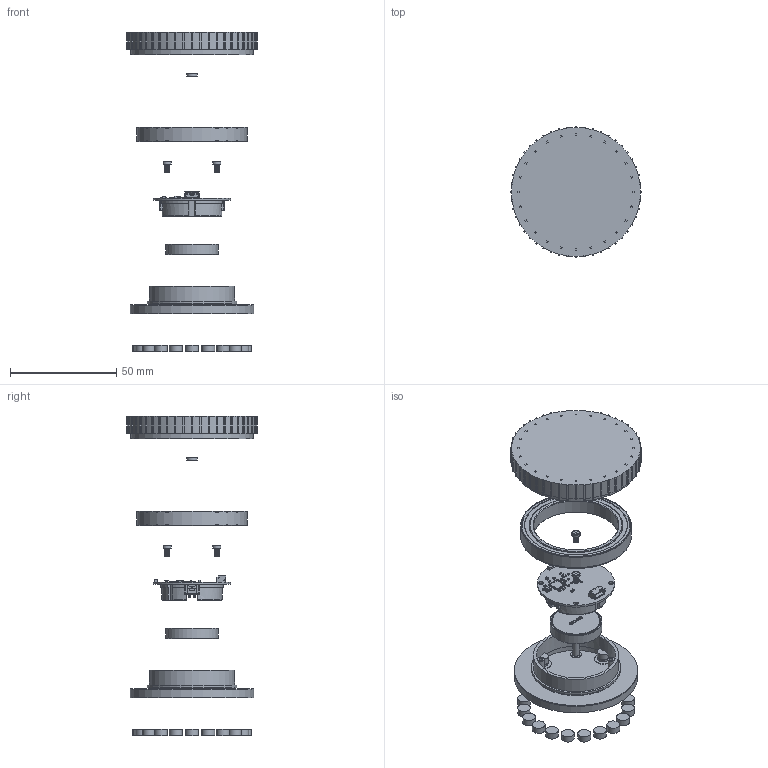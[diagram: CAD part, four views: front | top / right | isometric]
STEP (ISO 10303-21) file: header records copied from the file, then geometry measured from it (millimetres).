
FILE_DESCRIPTION(('Open CASCADE Model'),'2;1');
FILE_NAME('Open CASCADE Shape Model','2026-11-12T18:16:53',('Author'),( 'Open CASCADE'),'Open CASCADE STEP processor 7.9','Open CASCADE 7.9' ,'Unknown');
FILE_SCHEMA(('AUTOMOTIVE_DESIGN { 1 0 10303 214 1 1 1 1 }'));
Length unit declared in the file: millimetre
Products named in the file (55): V3_Exploded; PCB; Cell; PCB_Fasteners; Electronic_U1; Electronic_BT1; Electronic_C4; Electronic_C9; Electronic_C15; Electronic_C5; Electronic_C8; Electronic_C10; Electronic_C16; Electronic_C18; Electronic_J_DEBUG; Electronic_R4; Electronic_U2; Electronic_C6; Electronic_R1; Electronic_R2; Electronic_R3; Electronic_X1; Electronic_C1; Electronic_C2; Electronic_X2; Electronic_C11; Electronic_C12; Electronic_L1; Electronic_L2; Electronic_C3; Electronic_ANT1; Bearing_6808; Magnet; Cap_circular; Base_V3_Discs; Attachment_Disc_01; Attachment_Disc_02; Attachment_Disc_03; Attachment_Disc_04; Attachment_Disc_05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
Assembly tree (54 placements, depth 2):
  V3_Exploded
    PCB
    Cell
    PCB_Fasteners
    Electronic_U1
    Electronic_BT1
    Electronic_C4
    Electronic_C9
    Electronic_C15
    Electronic_C5
    Electronic_C8
    Electronic_C10
    Electronic_C16
    Electronic_C18
    Electronic_J_DEBUG
    Electronic_R4
    Electronic_U2
    Electronic_C6
    Electronic_R1
    Electronic_R2
    Electronic_R3
    Electronic_X1
    Electronic_C1
    Electronic_C2
    Electronic_X2
    Electronic_C11
    Electronic_C12
    Electronic_L1
    Electronic_L2
    Electronic_C3
    Electronic_ANT1
    Bearing_6808
    Magnet
    Cap_circular
    Base_V3_Discs
    Attachment_Disc_01
    Attachment_Disc_02
    Attachment_Disc_03
    Attachment_Disc_04
    Attachment_Disc_05
    Attachment_Disc_06
    Attachment_Disc_07
    Attachment_Disc_08
    Attachment_Disc_09
    Attachment_Disc_10
    Attachment_Disc_11
    Attachment_Disc_12
    Attachment_Disc_13
    Attachment_Disc_14
    Attachment_Disc_15
    Attachment_Disc_16
    Attachment_Disc_17
    Attachment_Disc_18
    Attachment_Disc_19
    Attachment_Disc_20
Bounding box: 61.6 x 61.6 x 150.2 mm (x, y, z)
Volume: 28760.8 mm3; surface area: 41469.3 mm2
Topology: 254 solids, 254 shells, 11450 faces, 30175 edges, 19729 vertices
Faces by surface type: plane 6668, bspline 2964, cylinder 1451, sphere 211, extrusion 76, torus 48, cone 32
Full cylindrical faces by diameter (mm): 0.36 x21, 1.6 x4, 1.96 x18, 2.2 x4, 3.2 x4, 3.8 x2, 5 x8, 5.2 x1, 5.4 x3, 6 x20, 6.4 x20, 7 x1, 22.2 x2, 23.2 x1, 23.3 x1, 24.5 x1, 36.5 x1, 37.3 x1, 40 x1, 40.05 x1, 41.4 x1, 42 x1, 43.9 x2, 43.96 x2, 44.2 x2, 48.04 x2, 48.1 x2, 50 x1, 50.7 x4, 51.4 x2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
Entity records: 836295 total; most frequent: CARTESIAN_POINT 276113, DIRECTION 86327, VECTOR 62623, LINE 62547, ORIENTED_EDGE 59928, PCURVE 59928, DEFINITIONAL_REPRESENTATION 59928, EDGE_CURVE 29964
